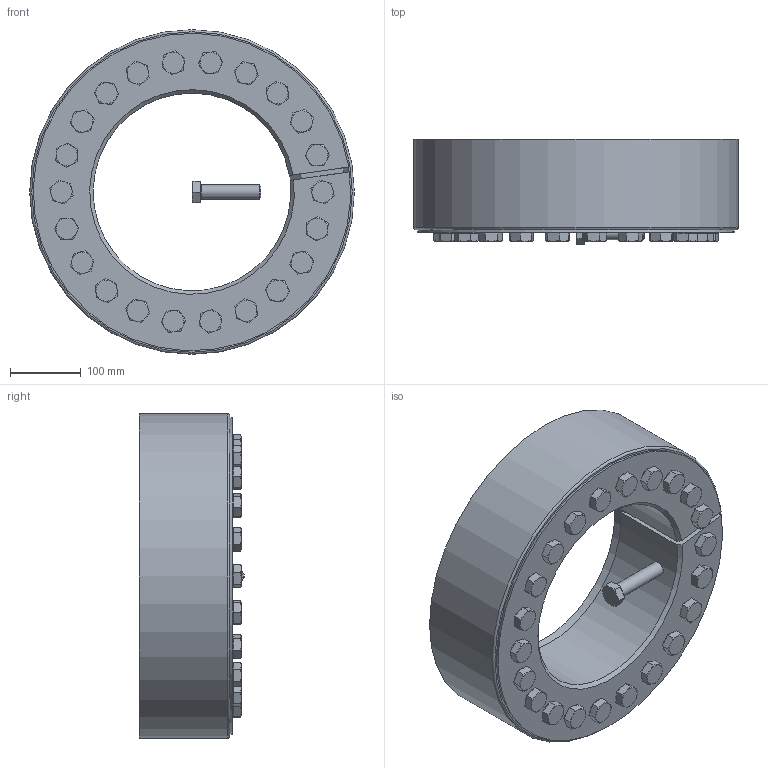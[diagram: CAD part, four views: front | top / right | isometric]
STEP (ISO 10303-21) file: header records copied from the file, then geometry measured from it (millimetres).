
FILE_DESCRIPTION( ( 'Unknown' ), '1' );
FILE_NAME( 'C:/Dokumente und Einstellungen/Sven/Desktop/homepage/cad - homepage/KBS19-1/KBS 19_1 - 280 x 460.stp', 'Unknown', ( 'Unknown' ), ( 'Unknown' ), 'XStep 1.0', 'Unknown', ' ' );
FILE_SCHEMA( ( 'automotive_design' ) );
Length unit declared in the file: millimetre
Products named in the file (3): Assem1; KBS 19_1 - 280 x 460; ISO 4017 - M20 x 85-N
Bounding box: 460 x 149.32 x 460 mm (x, y, z)
Volume: 26442063.8 mm3; surface area: 1569642.1 mm2
Topology: 25 solids, 25 shells, 649 faces, 1423 edges, 847 vertices
Faces by surface type: plane 363, cone 167, cylinder 94, torus 25
Full cylindrical faces by diameter (mm): 20 x67, 30 x23, 460 x2
Entity records: 2330 total; most frequent: CARTESIAN_POINT 389, DIRECTION 352, ORIENTED_EDGE 254, AXIS2_PLACEMENT_3D 157, EDGE_LOOP 137, EDGE_CURVE 127, VERTEX_POINT 98, FACE_OUTER_BOUND 89
